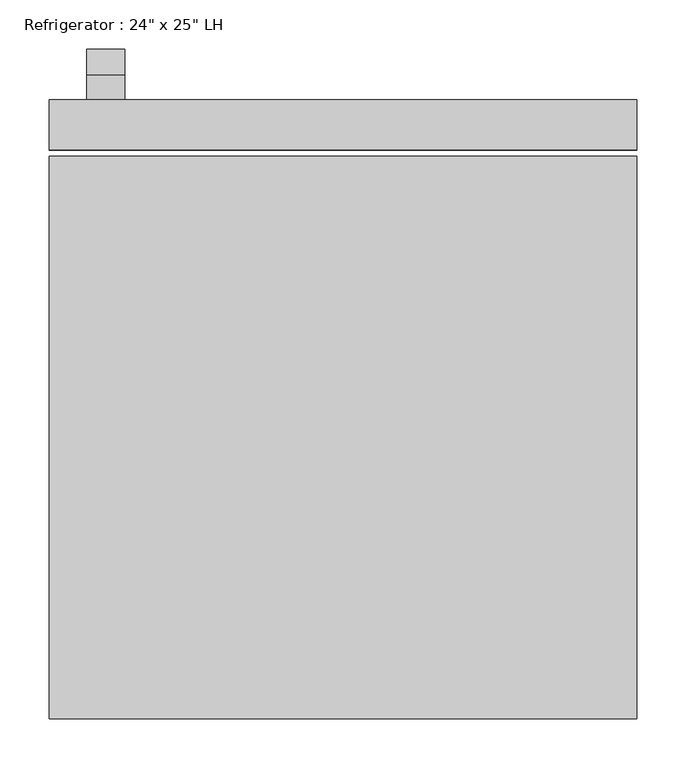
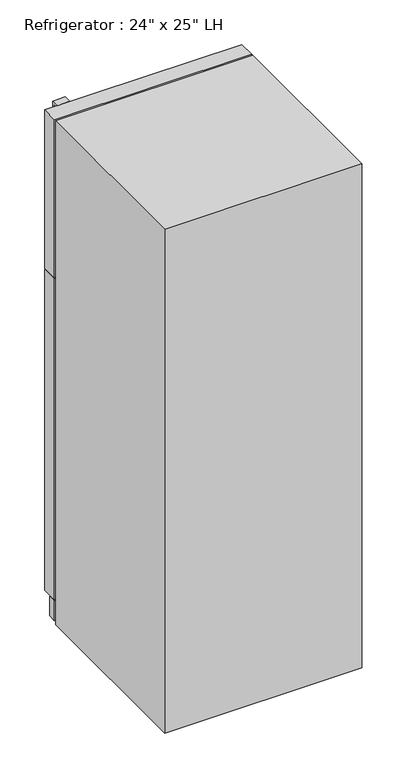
"""IFC4 building model written with IfcOpenShell, lengths in millimetres: proxy geometry."""

import ifcopenshell
import ifcopenshell.guid

model = None  # the IFC model being written
_history = None  # IfcOwnerHistory: only IFC2X3 demands one
_inside = {}  # id of a spatial element -> (the spatial element, [elements in it])
_under = {}  # id of a project, library or spatial element -> (it, [spatial elements below it])
_declared = {}  # id of a project -> (the project, [libraries it declares])
_typed = {}  # id of a type object -> (the type object, [elements of that type])
_made_of = {}  # id of a material, layer set ... -> (it, [elements and type objects made of it])


def new_model(schema):
    """Start an empty IFC model of exactly this schema.

    Asked for "IFC4X3", IfcOpenShell would pick the latest addendum, in which some entities
    have other attributes; the version numbers below select the first issue.
    IFC2X3 requires an IfcOwnerHistory on every rooted entity: one is made here for all.
    """
    global model, _history
    if schema == "IFC4X3":
        model = ifcopenshell.file(schema_version=(4, 3, 0, 0))
    else:
        model = ifcopenshell.file(schema=schema)
    _inside.clear()
    _under.clear()
    _declared.clear()
    _typed.clear()
    _made_of.clear()
    _history = None
    if model.schema == "IFC2X3":
        org = make("IfcOrganization", Name="unknown")
        user = make(
            "IfcPersonAndOrganization",
            ThePerson=make("IfcPerson", FamilyName="unknown"),
            TheOrganization=org,
        )
        app = make(
            "IfcApplication",
            ApplicationDeveloper=org,
            Version="unknown",
            ApplicationFullName="unknown",
            ApplicationIdentifier="unknown",
        )
        _history = make(
            "IfcOwnerHistory",
            OwningUser=user,
            OwningApplication=app,
            ChangeAction="ADDED",
            CreationDate=0,
        )
    return model


def make(cls, **values):
    """One entity of the class cls with the attributes given. An attribute that is None is left unset."""
    return model.create_entity(
        cls, **{name: value for name, value in values.items() if value is not None}
    )


def rooted(cls, **values):
    """An entity with a GlobalId (a new one), such as an element, a storey or a relation."""
    return make(cls, GlobalId=ifcopenshell.guid.new(), OwnerHistory=_history, **values)


def si_unit(unit_type, name, prefix=None):
    """IfcSIUnit, for example si_unit("LENGTHUNIT", "METRE", prefix="MILLI")."""
    return make("IfcSIUnit", UnitType=unit_type, Prefix=prefix, Name=name)


def assignment(units):
    """IfcUnitAssignment: the units of a project."""
    return None if units is None else make("IfcUnitAssignment", Units=units)


def point(xyz):
    """IfcCartesianPoint."""
    return None if xyz is None else make("IfcCartesianPoint", Coordinates=xyz)


def direction(xyz):
    """IfcDirection."""
    return None if xyz is None else make("IfcDirection", DirectionRatios=xyz)


def frame(location, z_axis=None, x_axis=None):
    """IfcAxis2Placement3D, a coordinate frame: its origin and axes. An axis left out is left unset."""
    return make(
        "IfcAxis2Placement3D",
        Location=point(location),
        Axis=direction(z_axis),
        RefDirection=direction(x_axis),
    )


def origin():
    """The frame at (0, 0, 0) with its axes left unset."""
    return frame((0.0, 0.0, 0.0))


def origin_with_axes():
    """The frame at (0, 0, 0) with the z axis (0, 0, 1) and the x axis (1, 0, 0) written out."""
    return frame((0.0, 0.0, 0.0), z_axis=(0.0, 0.0, 1.0), x_axis=(1.0, 0.0, 0.0))


def place(relative_to, where):
    """IfcLocalPlacement: puts the frame where relative to a parent placement (None: the world)."""
    return make(
        "IfcLocalPlacement", PlacementRelTo=relative_to, RelativePlacement=where
    )


def context(
    kind, dimensions, precision=None, world=None, true_north=None, identifier=None
):
    """IfcGeometricRepresentationContext, for example the 3D "Model" context."""
    return make(
        "IfcGeometricRepresentationContext",
        ContextIdentifier=identifier,
        ContextType=kind,
        CoordinateSpaceDimension=dimensions,
        Precision=precision,
        WorldCoordinateSystem=world,
        TrueNorth=true_north,
    )


def project(units=None, contexts=None):
    """IfcProject with its units and contexts."""
    return rooted(
        "IfcProject",
        Name="project",
        RepresentationContexts=contexts,
        UnitsInContext=assignment(units),
    )


def spatial(cls, under=None, at=None, **own):
    """A site, building, storey or space (cls), placed at a placement, below another one or the project."""
    s = rooted(cls, ObjectPlacement=at, **own)
    if under is not None:
        _under.setdefault(under.id(), (under, []))[1].append(s)
    return s


def polyline(points):
    """IfcPolyline through the points."""
    return make("IfcPolyline", Points=[point(p) for p in points])


def outline(outer, holes=None, kind="AREA"):
    """IfcArbitraryClosedProfileDef: a profile drawn as a closed curve; with holes, ...WithVoids."""
    if holes is None:
        return make("IfcArbitraryClosedProfileDef", ProfileType=kind, OuterCurve=outer)
    return make(
        "IfcArbitraryProfileDefWithVoids",
        ProfileType=kind,
        OuterCurve=outer,
        InnerCurves=holes,
    )


def extrude(swept, where, along, depth):
    """IfcExtrudedAreaSolid: the profile swept, set in the frame where, extruded along a direction by depth."""
    return make(
        "IfcExtrudedAreaSolid",
        SweptArea=swept,
        Position=where,
        ExtrudedDirection=direction(along),
        Depth=depth,
    )


def shape(context_of_items, identifier, shape_type, items):
    """IfcShapeRepresentation: the items that make up one representation, for example the "Body"."""
    return make(
        "IfcShapeRepresentation",
        ContextOfItems=context_of_items,
        RepresentationIdentifier=identifier,
        RepresentationType=shape_type,
        Items=items,
    )


def source(mapping_origin, context_of_items, identifier, shape_type, items):
    """IfcRepresentationMap: a shape defined once, which mapped items show again and again."""
    return make(
        "IfcRepresentationMap",
        MappingOrigin=mapping_origin,
        MappedRepresentation=shape(context_of_items, identifier, shape_type, items),
    )


def transform(
    local_origin,
    x_axis=None,
    y_axis=None,
    z_axis=None,
    scale=None,
    scale2=None,
    scale3=None,
    uniform=True,
):
    """IfcCartesianTransformationOperator3D, or its non-uniform kind. x_axis, y_axis, z_axis: its Axis1, 2, 3."""
    if uniform:
        return make(
            "IfcCartesianTransformationOperator3D",
            Axis1=direction(x_axis),
            Axis2=direction(y_axis),
            LocalOrigin=point(local_origin),
            Scale=scale,
            Axis3=direction(z_axis),
        )
    return make(
        "IfcCartesianTransformationOperator3DnonUniform",
        Axis1=direction(x_axis),
        Axis2=direction(y_axis),
        LocalOrigin=point(local_origin),
        Scale=scale,
        Axis3=direction(z_axis),
        Scale2=scale2,
        Scale3=scale3,
    )


def mapped(mapping_source, mapping_target):
    """IfcMappedItem: shows the shape of a source again, moved by a transform."""
    return make(
        "IfcMappedItem", MappingSource=mapping_source, MappingTarget=mapping_target
    )


def made_of(thing, what):
    """Note that an element or type object is made of a material, layer set ...; save() writes the relation."""
    if what is not None:
        _made_of.setdefault(what.id(), (what, []))[1].append(thing)
    return thing


def element(
    cls,
    number,
    at=None,
    inside=None,
    cuts=None,
    type_object=None,
    material=None,
    context=None,
    identifier="Body",
    shape_type=None,
    held_by="IfcProductDefinitionShape",
    body=None,
    shapes=None,
    **own,
):
    """One element of the class cls, such as IfcWall. Its Tag is "e" and its number.

    at: its placement. inside: the storey or other place that contains it. cuts: it is an
    opening in that element (IfcRelVoidsElement). A single representation is given by context,
    identifier, shape_type and body (its items); several are given by shapes. held_by: the class
    of the entity that holds the representations. save() writes the other relations.
    """
    e = rooted(cls, Tag="e%d" % number, ObjectPlacement=at, **own)
    if body is not None:
        shapes = [shape(context, identifier, shape_type, body)]
    if shapes is not None:
        e.Representation = make(held_by, Representations=shapes)
    if inside is not None:
        _inside.setdefault(inside.id(), (inside, []))[1].append(e)
    if cuts is not None:
        rooted(
            "IfcRelVoidsElement", RelatingBuildingElement=cuts, RelatedOpeningElement=e
        )
    if type_object is not None:
        _typed.setdefault(type_object.id(), (type_object, []))[1].append(e)
    return made_of(e, material)


def aggregate(whole, parts):
    """IfcRelAggregates: a whole, such as a stair, and the parts it consists of."""
    return rooted("IfcRelAggregates", RelatingObject=whole, RelatedObjects=parts)


def save(model, path):
    """Write the relations noted so far, then the file.

    IfcRelAggregates (storeys below a building ...), IfcRelContainedInSpatialStructure (elements
    in a storey), IfcRelDefinesByType, IfcRelAssociatesMaterial and IfcRelDeclares: one each for
    every whole, place, type object, material and project.
    """
    for whole, parts in _under.values():
        aggregate(whole, parts)
    for where, things in _inside.values():
        rooted(
            "IfcRelContainedInSpatialStructure",
            RelatedElements=things,
            RelatingStructure=where,
        )
    for kind, things in _typed.values():
        rooted("IfcRelDefinesByType", RelatedObjects=things, RelatingType=kind)
    for what, things in _made_of.values():
        rooted("IfcRelAssociatesMaterial", RelatedObjects=things, RelatingMaterial=what)
    for by, libraries in _declared.values():
        rooted("IfcRelDeclares", RelatingContext=by, RelatedDefinitions=libraries)
    model.write(path)


def proxy_ec3341c2(model_context):
    return source(origin(), model_context, "Body", "SweptSolid", [
        extrude(outline(polyline([(329.0010285, 1096.9625), (329.0010285, 1103.3125), (379.8010285, 1103.3125), (379.8010285, 900.1125), (351.8949512, 501.0370017), (329.0010285, 501.0370017), (329.0010285, 507.3715334), (345.9723987, 507.3715334), (373.4510285, 900.3342469), (373.4510285, 1096.9625), (329.0010285, 1096.9625)])), frame((-260.35, 0.0, 0.0), z_axis=(1.0, 0.0, 0.0), x_axis=(0.0, 1.0, 0.0)), (0.0, 0.0, 1.0), 38.4332978),
        extrude(outline(polyline([(353.839413, 1612.9), (380.3793675, 1106.4875), (329.7780855, 1106.4875), (329.7780855, 1112.8375), (374.5007207, 1112.8375), (348.6263449, 1606.55), (329.7780855, 1606.55), (329.7780855, 1612.9), (353.839413, 1612.9)])), frame((-260.35, 0.0, 0.0), z_axis=(1.0, 0.0, 0.0), x_axis=(0.0, 1.0, 0.0)), (0.0, 0.0, 1.0), 38.4332978),
        extrude(outline(polyline([(298.45, 278.2010285), (-298.45, 278.2010285), (-298.45, 303.6010285), (298.45, 303.6010285), (298.45, 278.2010285)])), frame((0.0, 0.0, 9.3816357), z_axis=(0.0, 0.0, 1.0), x_axis=(1.0, 0.0, 0.0)), (0.0, 0.0, 1.0), 63.5),
        extrude(outline(polyline([(298.45, 278.2010285), (-298.45, 278.2010285), (-298.45, 329.0010285), (298.45, 329.0010285), (298.45, 278.2010285)])), frame((0.0, 0.0, 76.2), z_axis=(0.0, 0.0, 1.0), x_axis=(1.0, 0.0, 0.0)), (0.0, 0.0, 1.0), 1027.1125),
        extrude(outline(polyline([(298.45, 278.2010285), (-298.45, 278.2010285), (-298.45, 329.0010285), (298.45, 329.0010285), (298.45, 278.2010285)])), frame((0.0, 0.0, 1106.4875), z_axis=(0.0, 0.0, 1.0), x_axis=(1.0, 0.0, 0.0)), (0.0, 0.0, 1.0), 506.4125),
        extrude(outline(polyline([(298.45, -299.6489715), (-298.45, -299.6489715), (-298.45, 271.8510285), (298.45, 271.8510285), (298.45, -299.6489715)])), origin_with_axes(), (0.0, 0.0, 1.0), 1612.9),
    ])


if __name__ == "__main__":
    model = new_model("IFC4")
    model_context = context("Model", 3, world=origin())
    ifc_project = project(units=[si_unit("LENGTHUNIT", "METRE", prefix="MILLI")], contexts=[model_context])
    site = spatial("IfcSite", under=ifc_project)
    building = spatial("IfcBuilding", under=site)
    placement = place(None, origin())
    proxy_shape = proxy_ec3341c2(model_context)
    element("IfcBuildingElementProxy", 1, Name="Refrigerator : 24\" x 25\" LH", ObjectType="Refrigerator : 24\" x 25\" LH", at=placement, inside=building, context=model_context, shape_type="MappedRepresentation", body=[
        mapped(proxy_shape, transform((0.0, 0.0, 0.0), x_axis=(1.0, 0.0, 0.0), y_axis=(0.0, 1.0, 0.0), z_axis=(0.0, 0.0, 1.0))),
    ])
    save(model, "model.ifc")
